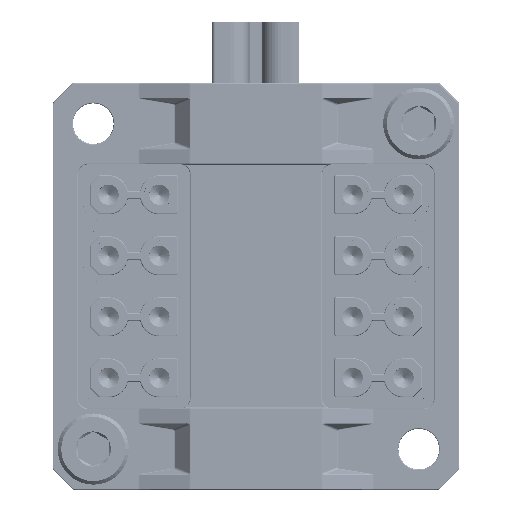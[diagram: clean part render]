
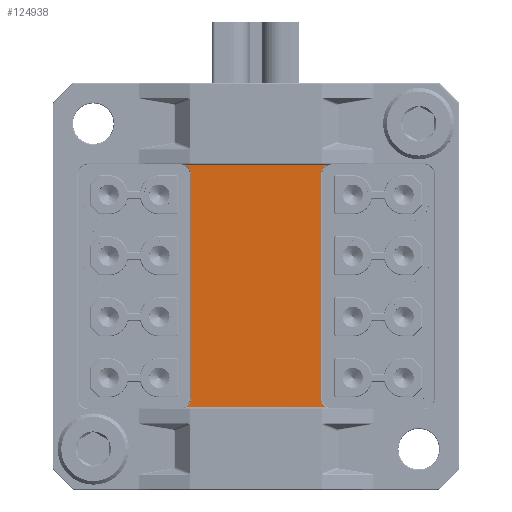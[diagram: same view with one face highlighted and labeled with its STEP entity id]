
A CAD part, top view. The second image highlights one B-rep face of the part: STEP entity #124938.
In plain terms, the highlighted planar face has unit normal (0, 0, 1).
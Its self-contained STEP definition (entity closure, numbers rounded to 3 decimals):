
#934 = VECTOR ( 'NONE', #23081, 1000. ) ;
#1940 = DIRECTION ( 'NONE',  ( 0., -1., 0. ) ) ;
#3614 = EDGE_CURVE ( 'NONE', #124043, #52376, #121054, .T. ) ;
#6962 = EDGE_CURVE ( 'NONE', #45927, #99827, #59897, .T. ) ;
#7270 = AXIS2_PLACEMENT_3D ( 'NONE', #49230, #89470, #69793 ) ;
#8597 = DIRECTION ( 'NONE',  ( -1., 0., 0. ) ) ;
#9950 = CARTESIAN_POINT ( 'NONE',  ( 6.4, 11., 3. ) ) ;
#11154 = CIRCLE ( 'NONE', #108668, 1.1 ) ;
#15048 = DIRECTION ( 'NONE',  ( 0., 0., 1. ) ) ;
#17312 = CARTESIAN_POINT ( 'NONE',  ( 7.5, -11., 3. ) ) ;
#23081 = DIRECTION ( 'NONE',  ( 1., 0., 0. ) ) ;
#23300 = VERTEX_POINT ( 'NONE', #9950 ) ;
#23385 = CARTESIAN_POINT ( 'NONE',  ( 6.4, 6., 3. ) ) ;
#24580 = ORIENTED_EDGE ( 'NONE', *, *, #50345, .F. ) ;
#27924 = VECTOR ( 'NONE', #125961, 1000. ) ;
#31652 = ORIENTED_EDGE ( 'NONE', *, *, #78925, .F. ) ;
#39445 = EDGE_CURVE ( 'NONE', #42131, #103694, #74379, .T. ) ;
#40569 = DIRECTION ( 'NONE',  ( 0.707, 0.707, 0. ) ) ;
#41953 = LINE ( 'NONE', #23385, #62781 ) ;
#42131 = VERTEX_POINT ( 'NONE', #57229 ) ;
#45927 = VERTEX_POINT ( 'NONE', #58212 ) ;
#49230 = CARTESIAN_POINT ( 'NONE',  ( -7.5, -11., 3. ) ) ;
#49558 = DIRECTION ( 'NONE',  ( 0., 0., 1. ) ) ;
#50345 = EDGE_CURVE ( 'NONE', #99827, #124043, #11154, .T. ) ;
#51728 = EDGE_CURVE ( 'NONE', #77566, #42131, #73503, .T. ) ;
#52376 = VERTEX_POINT ( 'NONE', #57487 ) ;
#53951 = CARTESIAN_POINT ( 'NONE',  ( -8.75, 11.9, 3. ) ) ;
#54368 = CARTESIAN_POINT ( 'NONE',  ( -6.4, 6., 3. ) ) ;
#57229 = CARTESIAN_POINT ( 'NONE',  ( 6.868, -11.9, 3. ) ) ;
#57487 = CARTESIAN_POINT ( 'NONE',  ( 6.868, 11.9, 3. ) ) ;
#58212 = CARTESIAN_POINT ( 'NONE',  ( -6.4, -11., 3. ) ) ;
#58333 = DIRECTION ( 'NONE',  ( 0., 0., -1. ) ) ;
#59188 = CARTESIAN_POINT ( 'NONE',  ( -6.868, 11.9, 3. ) ) ;
#59897 = LINE ( 'NONE', #54368, #27924 ) ;
#60252 = AXIS2_PLACEMENT_3D ( 'NONE', #68195, #58333, #69059 ) ;
#62781 = VECTOR ( 'NONE', #1940, 1000. ) ;
#66446 = VECTOR ( 'NONE', #8597, 1000. ) ;
#67752 = PLANE ( 'NONE',  #60252 ) ;
#68195 = CARTESIAN_POINT ( 'NONE',  ( 0., 0., 3. ) ) ;
#69059 = DIRECTION ( 'NONE',  ( -1., 0., 0. ) ) ;
#69793 = DIRECTION ( 'NONE',  ( 0.707, -0.707, 0. ) ) ;
#73503 = CIRCLE ( 'NONE', #79707, 1.1 ) ;
#74379 = LINE ( 'NONE', #130463, #66446 ) ;
#75498 = ORIENTED_EDGE ( 'NONE', *, *, #51728, .F. ) ;
#76015 = CARTESIAN_POINT ( 'NONE',  ( -6.868, -11.9, 3. ) ) ;
#77566 = VERTEX_POINT ( 'NONE', #127933 ) ;
#78925 = EDGE_CURVE ( 'NONE', #103694, #45927, #100438, .T. ) ;
#79707 = AXIS2_PLACEMENT_3D ( 'NONE', #17312, #98358, #88914 ) ;
#82482 = CIRCLE ( 'NONE', #97395, 1.1 ) ;
#82596 = ORIENTED_EDGE ( 'NONE', *, *, #3614, .F. ) ;
#88914 = DIRECTION ( 'NONE',  ( -0.707, -0.707, 0. ) ) ;
#89130 = ORIENTED_EDGE ( 'NONE', *, *, #93417, .F. ) ;
#89470 = DIRECTION ( 'NONE',  ( 0., 0., 1. ) ) ;
#90347 = ORIENTED_EDGE ( 'NONE', *, *, #39445, .F. ) ;
#91992 = CARTESIAN_POINT ( 'NONE',  ( -7.5, 11., 3. ) ) ;
#93417 = EDGE_CURVE ( 'NONE', #23300, #77566, #41953, .T. ) ;
#94140 = ORIENTED_EDGE ( 'NONE', *, *, #99147, .F. ) ;
#97395 = AXIS2_PLACEMENT_3D ( 'NONE', #128325, #15048, #108583 ) ;
#98358 = DIRECTION ( 'NONE',  ( 0., 0., 1. ) ) ;
#99028 = ORIENTED_EDGE ( 'NONE', *, *, #6962, .F. ) ;
#99147 = EDGE_CURVE ( 'NONE', #52376, #23300, #82482, .T. ) ;
#99827 = VERTEX_POINT ( 'NONE', #132120 ) ;
#100438 = CIRCLE ( 'NONE', #7270, 1.1 ) ;
#102007 = EDGE_LOOP ( 'NONE', ( #82596, #24580, #99028, #31652, #90347, #75498, #89130, #94140 ) ) ;
#103694 = VERTEX_POINT ( 'NONE', #76015 ) ;
#108583 = DIRECTION ( 'NONE',  ( -0.707, 0.707, 0. ) ) ;
#108668 = AXIS2_PLACEMENT_3D ( 'NONE', #91992, #49558, #40569 ) ;
#110584 = FACE_OUTER_BOUND ( 'NONE', #102007, .T. ) ;
#121054 = LINE ( 'NONE', #53951, #934 ) ;
#124043 = VERTEX_POINT ( 'NONE', #59188 ) ;
#124938 = ADVANCED_FACE ( 'NONE', ( #110584 ), #67752, .F. ) ;
#125961 = DIRECTION ( 'NONE',  ( 0., 1., 0. ) ) ;
#127933 = CARTESIAN_POINT ( 'NONE',  ( 6.4, -11., 3. ) ) ;
#128325 = CARTESIAN_POINT ( 'NONE',  ( 7.5, 11., 3. ) ) ;
#130463 = CARTESIAN_POINT ( 'NONE',  ( -3.25, -11.9, 3. ) ) ;
#132120 = CARTESIAN_POINT ( 'NONE',  ( -6.4, 11., 3. ) ) ;
